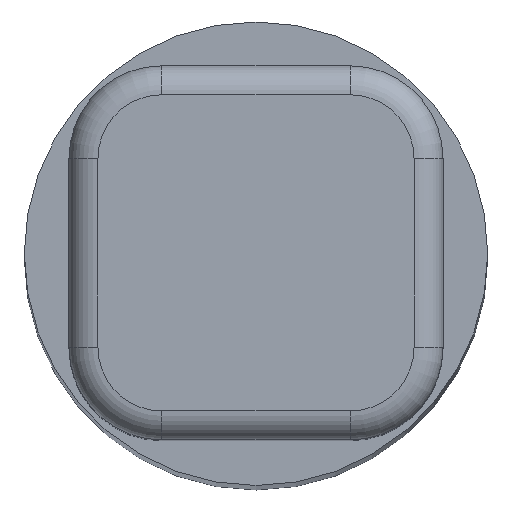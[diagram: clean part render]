
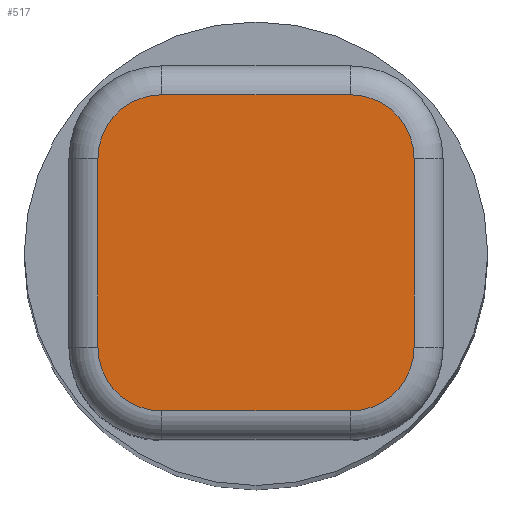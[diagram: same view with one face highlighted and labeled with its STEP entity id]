
A CAD part, top view. The second image highlights one B-rep face of the part: STEP entity #517.
In plain terms, the highlighted planar face has unit normal (0, 0, 1).
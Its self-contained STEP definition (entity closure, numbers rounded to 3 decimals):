
#2=CARTESIAN_POINT('',(0.814,34.936,9.1));
#3=DIRECTION('',(0.,0.,1.));
#4=DIRECTION('',(0.,-1.,0.));
#5=AXIS2_PLACEMENT_3D('',#2,#3,#4);
#7=DIRECTION('',(1.,0.,0.));
#8=VECTOR('',#7,1.628);
#9=CARTESIAN_POINT('',(-0.814,34.386,9.1));
#10=LINE('',#9,#8);
#11=CARTESIAN_POINT('',(-0.814,34.936,9.1));
#12=DIRECTION('',(0.,0.,1.));
#13=DIRECTION('',(-1.,0.,0.));
#14=AXIS2_PLACEMENT_3D('',#11,#12,#13);
#16=DIRECTION('',(0.,-1.,0.));
#17=VECTOR('',#16,1.628);
#18=CARTESIAN_POINT('',(-1.364,36.564,9.1));
#19=LINE('',#18,#17);
#20=CARTESIAN_POINT('',(-0.814,36.564,9.1));
#21=DIRECTION('',(0.,0.,1.));
#22=DIRECTION('',(0.,1.,0.));
#23=AXIS2_PLACEMENT_3D('',#20,#21,#22);
#25=DIRECTION('',(-1.,0.,0.));
#26=VECTOR('',#25,1.628);
#27=CARTESIAN_POINT('',(0.814,37.114,9.1));
#28=LINE('',#27,#26);
#29=CARTESIAN_POINT('',(0.814,36.564,9.1));
#30=DIRECTION('',(0.,0.,1.));
#31=DIRECTION('',(1.,0.,0.));
#32=AXIS2_PLACEMENT_3D('',#29,#30,#31);
#34=DIRECTION('',(0.,1.,0.));
#35=VECTOR('',#34,1.628);
#36=CARTESIAN_POINT('',(1.364,34.936,9.1));
#37=LINE('',#36,#35);
#430=CARTESIAN_POINT('',(0.814,34.386,9.1));
#431=CARTESIAN_POINT('',(1.364,34.936,9.1));
#432=VERTEX_POINT('',#430);
#433=VERTEX_POINT('',#431);
#438=CARTESIAN_POINT('',(1.364,36.564,9.1));
#439=VERTEX_POINT('',#438);
#442=CARTESIAN_POINT('',(0.814,37.114,9.1));
#443=VERTEX_POINT('',#442);
#446=CARTESIAN_POINT('',(-0.814,37.114,9.1));
#447=VERTEX_POINT('',#446);
#450=CARTESIAN_POINT('',(-1.364,36.564,9.1));
#451=VERTEX_POINT('',#450);
#454=CARTESIAN_POINT('',(-1.364,34.936,9.1));
#455=VERTEX_POINT('',#454);
#458=CARTESIAN_POINT('',(-0.814,34.386,9.1));
#459=VERTEX_POINT('',#458);
#494=CARTESIAN_POINT('',(0.,0.,9.1));
#495=DIRECTION('',(0.,0.,1.));
#496=DIRECTION('',(1.,0.,0.));
#497=AXIS2_PLACEMENT_3D('',#494,#495,#496);
#498=PLANE('',#497);
#500=ORIENTED_EDGE('',*,*,#499,.F.);
#502=ORIENTED_EDGE('',*,*,#501,.F.);
#504=ORIENTED_EDGE('',*,*,#503,.F.);
#506=ORIENTED_EDGE('',*,*,#505,.F.);
#508=ORIENTED_EDGE('',*,*,#507,.F.);
#510=ORIENTED_EDGE('',*,*,#509,.F.);
#512=ORIENTED_EDGE('',*,*,#511,.F.);
#514=ORIENTED_EDGE('',*,*,#513,.F.);
#515=EDGE_LOOP('',(#500,#502,#504,#506,#508,#510,#512,#514));
#516=FACE_OUTER_BOUND('',#515,.F.);
#517=ADVANCED_FACE('',(#516),#498,.T.);
#6=CIRCLE('',#5,0.55);
#15=CIRCLE('',#14,0.55);
#24=CIRCLE('',#23,0.55);
#33=CIRCLE('',#32,0.55);
#499=EDGE_CURVE('',#432,#433,#6,.T.);
#501=EDGE_CURVE('',#459,#432,#10,.T.);
#503=EDGE_CURVE('',#455,#459,#15,.T.);
#505=EDGE_CURVE('',#451,#455,#19,.T.);
#507=EDGE_CURVE('',#447,#451,#24,.T.);
#509=EDGE_CURVE('',#443,#447,#28,.T.);
#511=EDGE_CURVE('',#439,#443,#33,.T.);
#513=EDGE_CURVE('',#433,#439,#37,.T.);
